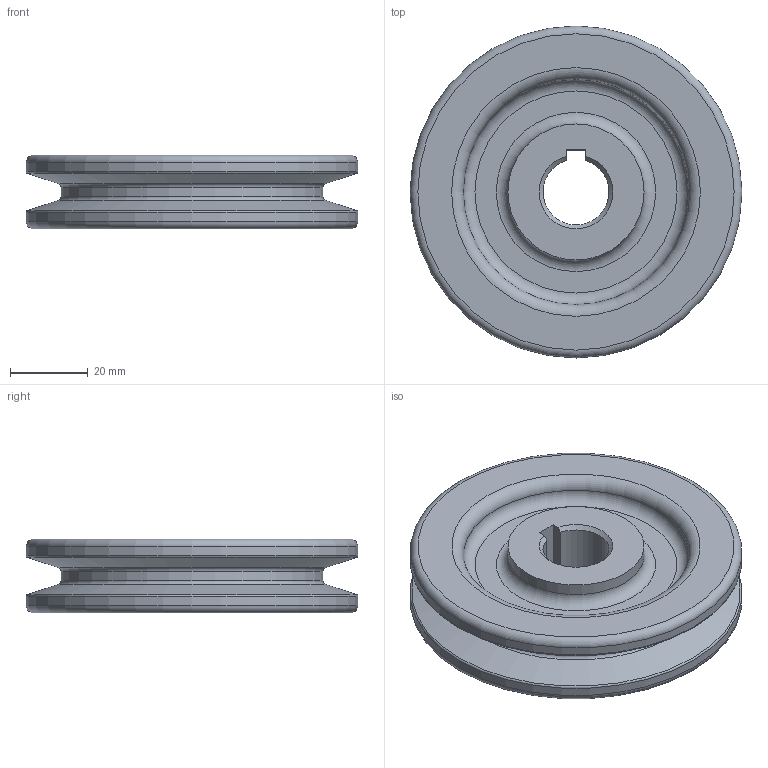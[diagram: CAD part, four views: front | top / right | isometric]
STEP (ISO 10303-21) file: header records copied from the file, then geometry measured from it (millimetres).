
FILE_DESCRIPTION(/* description */ (''),/* implementation_level */ '2;1');
FILE_NAME(/* name */ 'D:\381221E1007\381221E1007-v벨트풀리.stp',/* time_stamp */ '2018-12-28T14:38:04+09:00',/* author */ ('HI'),/* organization */ (''),/* preprocessor_version */ 'ST-DEVELOPER v15.2',/* originating_system */ 'Autodesk Inventor 2014',/* authorisation */ '');
FILE_SCHEMA (('AUTOMOTIVE_DESIGN { 1 0 10303 214 3 1 1 }'));
Length unit declared in the file: millimetre
Products named in the file (1): v-밸트풀리 542
Bounding box: 85.4 x 85.4 x 19 mm (x, y, z)
Volume: 69058.5 mm3; surface area: 21579.8 mm2
Topology: 1 solids, 1 shells, 31 faces, 61 edges, 36 vertices
Faces by surface type: torus 12, plane 9, cylinder 6, cone 4
Full cylindrical faces by diameter (mm): 35 x2, 67.4 x1, 85.4 x2
Entity records: 717 total; most frequent: DIRECTION 130, CARTESIAN_POINT 118, ORIENTED_EDGE 84, AXIS2_PLACEMENT_3D 60, EDGE_LOOP 56, EDGE_CURVE 42, VERTEX_POINT 36, ADVANCED_FACE 31
